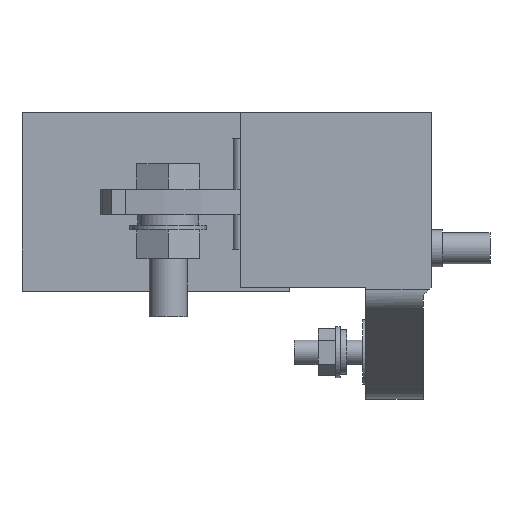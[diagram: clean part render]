
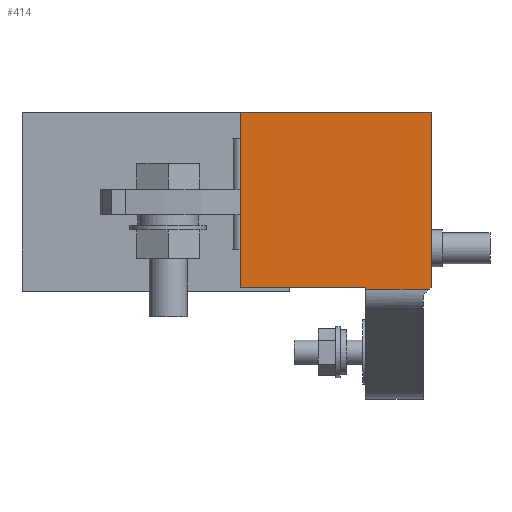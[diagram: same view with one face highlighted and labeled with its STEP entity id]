
A CAD part, front view. The second image highlights one B-rep face of the part: STEP entity #414.
In plain terms, the highlighted planar face has unit normal (0, -1, 0).
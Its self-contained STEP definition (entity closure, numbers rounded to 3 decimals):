
#195=FACE_OUTER_BOUND('',#2075,.T.);
#414=ADVANCED_FACE('',(#195),#674,.T.);
#674=PLANE('',#4840);
#965=LINE('',#6779,#1453);
#1012=LINE('',#6884,#1500);
#1018=LINE('',#6905,#1506);
#1030=LINE('',#6933,#1518);
#1031=LINE('',#6935,#1519);
#1032=LINE('',#6937,#1520);
#1033=LINE('',#6939,#1521);
#1453=VECTOR('',#5466,1.);
#1500=VECTOR('',#5529,1.);
#1506=VECTOR('',#5547,1.);
#1518=VECTOR('',#5575,1.);
#1519=VECTOR('',#5576,1.);
#1520=VECTOR('',#5577,1.);
#1521=VECTOR('',#5578,1.);
#2075=EDGE_LOOP('',(#2733,#2734,#2735,#2736,#2737,#2738,#2739));
#2733=ORIENTED_EDGE('',*,*,#4219,.T.);
#2734=ORIENTED_EDGE('',*,*,#4193,.T.);
#2735=ORIENTED_EDGE('',*,*,#4204,.T.);
#2736=ORIENTED_EDGE('',*,*,#4143,.T.);
#2737=ORIENTED_EDGE('',*,*,#4220,.T.);
#2738=ORIENTED_EDGE('',*,*,#4221,.T.);
#2739=ORIENTED_EDGE('',*,*,#4222,.T.);
#3653=VERTEX_POINT('',#6746);
#3669=VERTEX_POINT('',#6778);
#3719=VERTEX_POINT('',#6883);
#3720=VERTEX_POINT('',#6885);
#3737=VERTEX_POINT('',#6934);
#3738=VERTEX_POINT('',#6936);
#3739=VERTEX_POINT('',#6938);
#4143=EDGE_CURVE('',#3653,#3669,#965,.T.);
#4193=EDGE_CURVE('',#3720,#3719,#1012,.T.);
#4204=EDGE_CURVE('',#3719,#3653,#1018,.T.);
#4219=EDGE_CURVE('',#3737,#3720,#1030,.T.);
#4220=EDGE_CURVE('',#3669,#3738,#1031,.T.);
#4221=EDGE_CURVE('',#3738,#3739,#1032,.T.);
#4222=EDGE_CURVE('',#3739,#3737,#1033,.T.);
#4840=AXIS2_PLACEMENT_3D('',#6940,#5579,#5580);
#5466=DIRECTION('',(0.,0.,-1.));
#5529=DIRECTION('',(0.,0.,1.));
#5547=DIRECTION('',(-1.,0.,0.));
#5575=DIRECTION('',(0.717,0.,0.697));
#5576=DIRECTION('',(1.,0.,0.));
#5577=DIRECTION('',(0.,0.,-1.));
#5578=DIRECTION('',(1.,0.,0.));
#5579=DIRECTION('',(0.,-1.,0.));
#5580=DIRECTION('',(0.,0.,-1.));
#6746=CARTESIAN_POINT('',(-30.,-74.5,0.));
#6778=CARTESIAN_POINT('',(-30.,-74.5,-55.));
#6779=CARTESIAN_POINT('',(-30.,-74.5,-54.5));
#6883=CARTESIAN_POINT('',(30.,-74.5,0.));
#6884=CARTESIAN_POINT('',(30.,-74.5,-54.5));
#6885=CARTESIAN_POINT('',(30.,-74.5,-54.816));
#6905=CARTESIAN_POINT('',(-120.,-74.5,0.));
#6933=CARTESIAN_POINT('',(-47.,-74.5,-129.632));
#6934=CARTESIAN_POINT('',(29.379,-74.5,-55.419));
#6935=CARTESIAN_POINT('',(-120.,-74.5,-55.));
#6936=CARTESIAN_POINT('',(9.5,-74.5,-55.));
#6937=CARTESIAN_POINT('',(9.5,-74.5,-54.5));
#6938=CARTESIAN_POINT('',(9.5,-74.5,-55.419));
#6939=CARTESIAN_POINT('',(-120.,-74.5,-55.419));
#6940=CARTESIAN_POINT('',(-120.,-74.5,-54.5));
